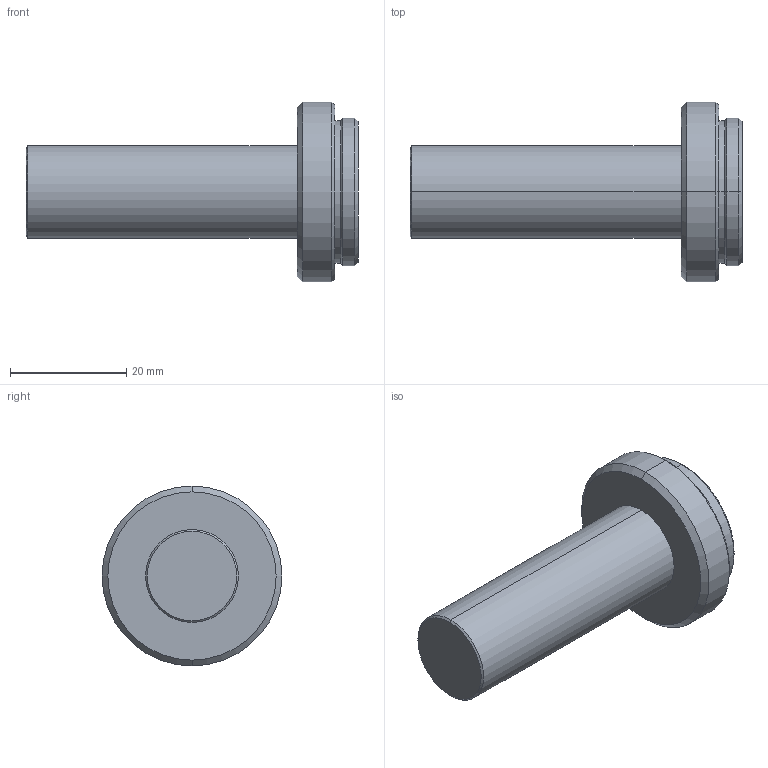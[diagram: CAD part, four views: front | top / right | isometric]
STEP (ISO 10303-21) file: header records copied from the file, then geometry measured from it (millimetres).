
FILE_DESCRIPTION (( 'STEP AP203' ), '1' );
FILE_NAME ('VS-TC3-40-LD.STEP', '2020-02-13T00:28:48', ( '' ), ( '' ), 'SwSTEP 2.0', 'SolidWorks 2017', '' );
FILE_SCHEMA (( 'CONFIG_CONTROL_DESIGN' ));
Length unit declared in the file: millimetre
Products named in the file (1): VS-TC3-40-LD
Bounding box: 57.2 x 31 x 31 mm (x, y, z)
Volume: 16208.6 mm3; surface area: 4725.9 mm2
Topology: 1 solids, 1 shells, 22 faces, 42 edges, 24 vertices
Faces by surface type: cone 10, cylinder 8, plane 4
Entity records: 631 total; most frequent: DIRECTION 112, CARTESIAN_POINT 89, ORIENTED_EDGE 84, AXIS2_PLACEMENT_3D 47, EDGE_CURVE 42, VERTEX_POINT 24, CIRCLE 24, EDGE_LOOP 24
